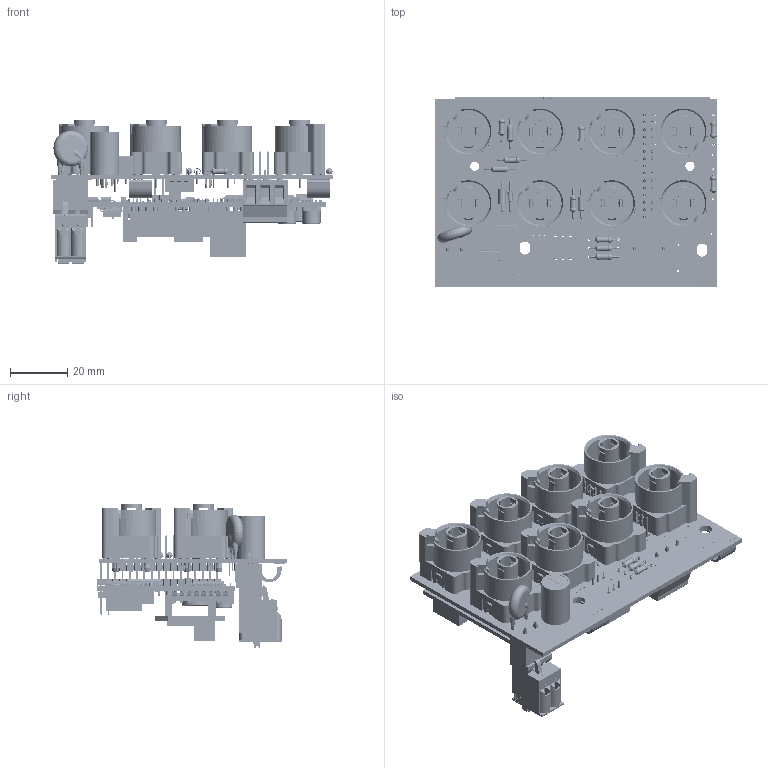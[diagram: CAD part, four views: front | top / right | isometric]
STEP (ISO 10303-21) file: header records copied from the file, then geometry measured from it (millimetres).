
FILE_DESCRIPTION(/* description */ (''),/* implementation_level */ '2;1');
FILE_NAME(/* name */ 'H:\KE\Axel\Bussysteme\DP_BTK\DP_BTK25_04_01.stp',/* time_stamp */ '2020-01-09T15:33:37+01:00',/* author */ ('ahoffmann'),/* organization */ (''),/* preprocessor_version */ 'ST-DEVELOPER v17.2',/* originating_system */ 'Autodesk Inventor 2019',/* authorisation */ '');
FILE_SCHEMA (('AUTOMOTIVE_DESIGN { 1 0 10303 214 3 1 1 }'));
Length unit declared in the file: millimetre
Products named in the file (1): DP_BTK25_04
Bounding box: 98.02 x 66.24 x 50.12 mm (x, y, z)
Volume: 57997.8 mm3; surface area: 69509.8 mm2
Topology: 24 solids, 95 shells, 15899 faces, 43051 edges, 27554 vertices
Faces by surface type: plane 10926, cylinder 3558, sphere 705, cone 287, bspline 271, torus 152
Full cylindrical faces by diameter (mm): 0.4 x9, 0.434 x1, 0.457 x2, 0.479 x1, 0.495 x1, 0.5 x174, 0.55 x4, 0.57 x8, 0.6 x161, 0.61 x2, 0.65 x3, 0.7 x16, 0.8 x5, 0.813 x58, 0.9 x30, 1 x81, 1.016 x40, 1.118 x2, 1.2 x2, 1.3 x6, 1.4 x2, 1.422 x16, 1.509 x8, 1.68 x32, 1.7 x64, 1.8 x2, 1.802 x1, 1.9 x84, 2.2 x52, 2.4 x17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
Entity records: 530002 total; most frequent: CARTESIAN_POINT 119791, ORIENTED_EDGE 85852, DIRECTION 81931, EDGE_CURVE 42926, LINE 32939, VECTOR 32939, VERTEX_POINT 27598, AXIS2_PLACEMENT_3D 24496
